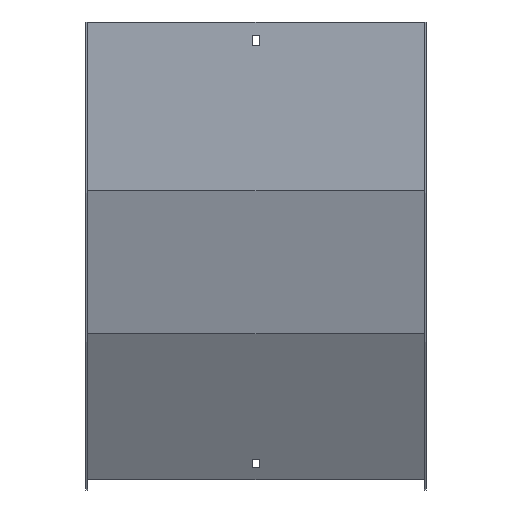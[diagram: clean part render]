
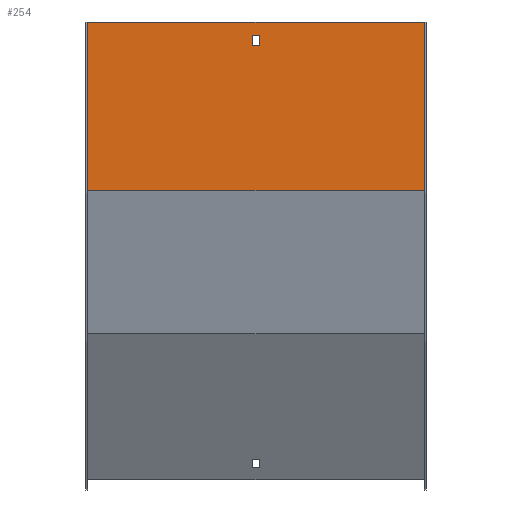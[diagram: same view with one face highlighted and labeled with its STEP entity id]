
A CAD part, front view. The second image highlights one B-rep face of the part: STEP entity #254.
In plain terms, the highlighted planar face has unit normal (0, -1, 0).
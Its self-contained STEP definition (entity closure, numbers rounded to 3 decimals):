
#2 = VERTEX_POINT ( 'NONE', #596 ) ;
#9 = LINE ( 'NONE', #808, #662 ) ;
#15 = EDGE_CURVE ( 'NONE', #403, #588, #9, .T. ) ;
#16 = DIRECTION ( 'NONE',  ( 0., 1., 0. ) ) ;
#34 = DIRECTION ( 'NONE',  ( -1., 0., 0. ) ) ;
#46 = VECTOR ( 'NONE', #317, 1000. ) ;
#49 = CARTESIAN_POINT ( 'NONE',  ( 151.5, -1.5, -21. ) ) ;
#87 = DIRECTION ( 'NONE',  ( 0., 0., -1. ) ) ;
#94 = CARTESIAN_POINT ( 'NONE',  ( 3.25, -1.5, 0. ) ) ;
#104 = ORIENTED_EDGE ( 'NONE', *, *, #252, .F. ) ;
#107 = ORIENTED_EDGE ( 'NONE', *, *, #218, .T. ) ;
#108 = VERTEX_POINT ( 'NONE', #694 ) ;
#116 = DIRECTION ( 'NONE',  ( 0., 0., -1. ) ) ;
#123 = EDGE_CURVE ( 'NONE', #2, #642, #484, .T. ) ;
#129 = FACE_BOUND ( 'NONE', #391, .T. ) ;
#141 = DIRECTION ( 'NONE',  ( -1., 0., 0. ) ) ;
#162 = LINE ( 'NONE', #519, #370 ) ;
#168 = VECTOR ( 'NONE', #34, 1000. ) ;
#207 = EDGE_CURVE ( 'NONE', #769, #379, #684, .T. ) ;
#215 = DIRECTION ( 'NONE',  ( -1., 0., 0. ) ) ;
#217 = DIRECTION ( 'NONE',  ( 0., 0., -1. ) ) ;
#218 = EDGE_CURVE ( 'NONE', #108, #653, #162, .T. ) ;
#229 = CARTESIAN_POINT ( 'NONE',  ( 150., -1.5, 0. ) ) ;
#252 = EDGE_CURVE ( 'NONE', #379, #403, #590, .T. ) ;
#254 = ADVANCED_FACE ( 'NONE', ( #390, #129 ), #732, .F. ) ;
#279 = CARTESIAN_POINT ( 'NONE',  ( -3.25, -1.5, -21. ) ) ;
#317 = DIRECTION ( 'NONE',  ( 1., 0., 0. ) ) ;
#332 = VECTOR ( 'NONE', #215, 1000. ) ;
#335 = CARTESIAN_POINT ( 'NONE',  ( 151.5, -1.5, 0. ) ) ;
#368 = CARTESIAN_POINT ( 'NONE',  ( -3.25, -1.5, -12. ) ) ;
#370 = VECTOR ( 'NONE', #141, 1000. ) ;
#379 = VERTEX_POINT ( 'NONE', #479 ) ;
#380 = LINE ( 'NONE', #647, #852 ) ;
#382 = VECTOR ( 'NONE', #87, 1000. ) ;
#384 = LINE ( 'NONE', #49, #46 ) ;
#387 = EDGE_LOOP ( 'NONE', ( #797, #491, #720, #107 ) ) ;
#390 = FACE_OUTER_BOUND ( 'NONE', #387, .T. ) ;
#391 = EDGE_LOOP ( 'NONE', ( #780, #528, #775, #104 ) ) ;
#403 = VERTEX_POINT ( 'NONE', #368 ) ;
#433 = LINE ( 'NONE', #229, #382 ) ;
#457 = EDGE_CURVE ( 'NONE', #588, #769, #384, .T. ) ;
#464 = CARTESIAN_POINT ( 'NONE',  ( -150., -1.5, -150.097 ) ) ;
#479 = CARTESIAN_POINT ( 'NONE',  ( 3.25, -1.5, -12. ) ) ;
#484 = LINE ( 'NONE', #542, #168 ) ;
#486 = CARTESIAN_POINT ( 'NONE',  ( 3.25, -1.5, -21. ) ) ;
#491 = ORIENTED_EDGE ( 'NONE', *, *, #123, .F. ) ;
#515 = EDGE_CURVE ( 'NONE', #653, #642, #380, .T. ) ;
#519 = CARTESIAN_POINT ( 'NONE',  ( 151.5, -1.5, 0. ) ) ;
#528 = ORIENTED_EDGE ( 'NONE', *, *, #457, .F. ) ;
#542 = CARTESIAN_POINT ( 'NONE',  ( 151.5, -1.5, -150.097 ) ) ;
#547 = CARTESIAN_POINT ( 'NONE',  ( -150., -1.5, 0. ) ) ;
#588 = VERTEX_POINT ( 'NONE', #279 ) ;
#590 = LINE ( 'NONE', #723, #332 ) ;
#596 = CARTESIAN_POINT ( 'NONE',  ( 150., -1.5, -150.097 ) ) ;
#612 = DIRECTION ( 'NONE',  ( 0., 0., 1. ) ) ;
#642 = VERTEX_POINT ( 'NONE', #464 ) ;
#647 = CARTESIAN_POINT ( 'NONE',  ( -150., -1.5, 0. ) ) ;
#653 = VERTEX_POINT ( 'NONE', #547 ) ;
#662 = VECTOR ( 'NONE', #217, 1000. ) ;
#668 = DIRECTION ( 'NONE',  ( 0., 0., 1. ) ) ;
#684 = LINE ( 'NONE', #94, #745 ) ;
#694 = CARTESIAN_POINT ( 'NONE',  ( 150., -1.5, 0. ) ) ;
#720 = ORIENTED_EDGE ( 'NONE', *, *, #768, .F. ) ;
#723 = CARTESIAN_POINT ( 'NONE',  ( 151.5, -1.5, -12. ) ) ;
#732 = PLANE ( 'NONE',  #815 ) ;
#745 = VECTOR ( 'NONE', #668, 1000. ) ;
#768 = EDGE_CURVE ( 'NONE', #108, #2, #433, .T. ) ;
#769 = VERTEX_POINT ( 'NONE', #486 ) ;
#775 = ORIENTED_EDGE ( 'NONE', *, *, #15, .F. ) ;
#780 = ORIENTED_EDGE ( 'NONE', *, *, #207, .F. ) ;
#797 = ORIENTED_EDGE ( 'NONE', *, *, #515, .T. ) ;
#808 = CARTESIAN_POINT ( 'NONE',  ( -3.25, -1.5, 0. ) ) ;
#815 = AXIS2_PLACEMENT_3D ( 'NONE', #335, #16, #612 ) ;
#852 = VECTOR ( 'NONE', #116, 1000. ) ;
